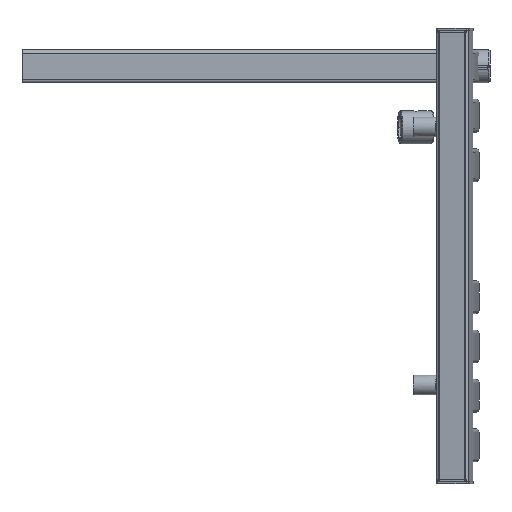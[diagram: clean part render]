
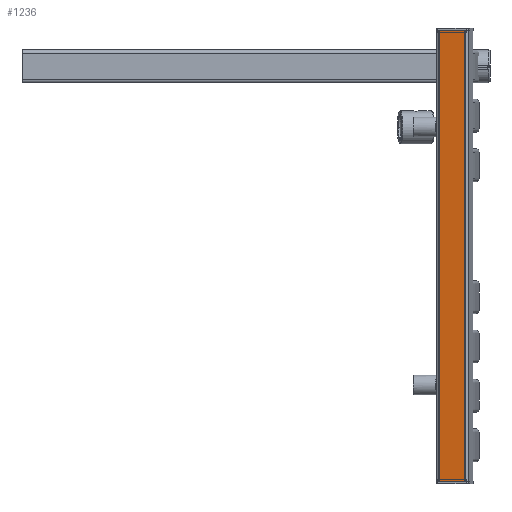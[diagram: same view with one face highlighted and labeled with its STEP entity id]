
A CAD part, left-side view. The second image highlights one B-rep face of the part: STEP entity #1236.
In plain terms, the highlighted planar face has unit normal (-0.988, 0.157, 0) as drawn and (0, 0, -1) by its records, which use the part's own axes.
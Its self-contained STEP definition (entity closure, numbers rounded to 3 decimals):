
#1236 = ADVANCED_FACE( '', ( #2553 ), #2554, .T. );
#2553 = FACE_OUTER_BOUND( '', #3980, .T. );
#2554 = PLANE( '', #3981 );
#3980 = EDGE_LOOP( '', ( #7266, #7267, #7268, #7269 ) );
#3981 = AXIS2_PLACEMENT_3D( '', #7270, #7271, #7272 );
#7266 = ORIENTED_EDGE( '', *, *, #9157, .F. );
#7267 = ORIENTED_EDGE( '', *, *, #9341, .T. );
#7268 = ORIENTED_EDGE( '', *, *, #9144, .T. );
#7269 = ORIENTED_EDGE( '', *, *, #9096, .T. );
#7270 = CARTESIAN_POINT( '', ( -15., 411., -15. ) );
#7271 = DIRECTION( '', ( 0., 0., -1. ) );
#7272 = DIRECTION( '', ( -1., 0., 0. ) );
#9096 = EDGE_CURVE( '', #11192, #11196, #11198, .T. );
#9144 = EDGE_CURVE( '', #11264, #11192, #11265, .T. );
#9157 = EDGE_CURVE( '', #11281, #11196, #11283, .T. );
#9341 = EDGE_CURVE( '', #11281, #11264, #11501, .F. );
#11192 = VERTEX_POINT( '', #13895 );
#11196 = VERTEX_POINT( '', #13900 );
#11198 = LINE( '', #13902, #13903 );
#11264 = VERTEX_POINT( '', #13991 );
#11265 = LINE( '', #13992, #13993 );
#11281 = VERTEX_POINT( '', #14012 );
#11283 = LINE( '', #14014, #14015 );
#11501 = LINE( '', #14296, #14297 );
#13895 = CARTESIAN_POINT( '', ( 12., 411., -15. ) );
#13900 = CARTESIAN_POINT( '', ( 12., 0., -15. ) );
#13902 = CARTESIAN_POINT( '', ( 12., 411., -15. ) );
#13903 = VECTOR( '', #16130, 1000. );
#13991 = CARTESIAN_POINT( '', ( -12., 411., -15. ) );
#13992 = CARTESIAN_POINT( '', ( -15., 411., -15. ) );
#13993 = VECTOR( '', #16189, 1000. );
#14012 = CARTESIAN_POINT( '', ( -12., 0., -15. ) );
#14014 = CARTESIAN_POINT( '', ( -15., 0., -15. ) );
#14015 = VECTOR( '', #16217, 1000. );
#14296 = CARTESIAN_POINT( '', ( -12., 411., -15. ) );
#14297 = VECTOR( '', #16422, 1000. );
#16130 = DIRECTION( '', ( 0., -1., 0. ) );
#16189 = DIRECTION( '', ( 1., 0., 0. ) );
#16217 = DIRECTION( '', ( 1., 0., 0. ) );
#16422 = DIRECTION( '', ( 0., -1., 0. ) );
